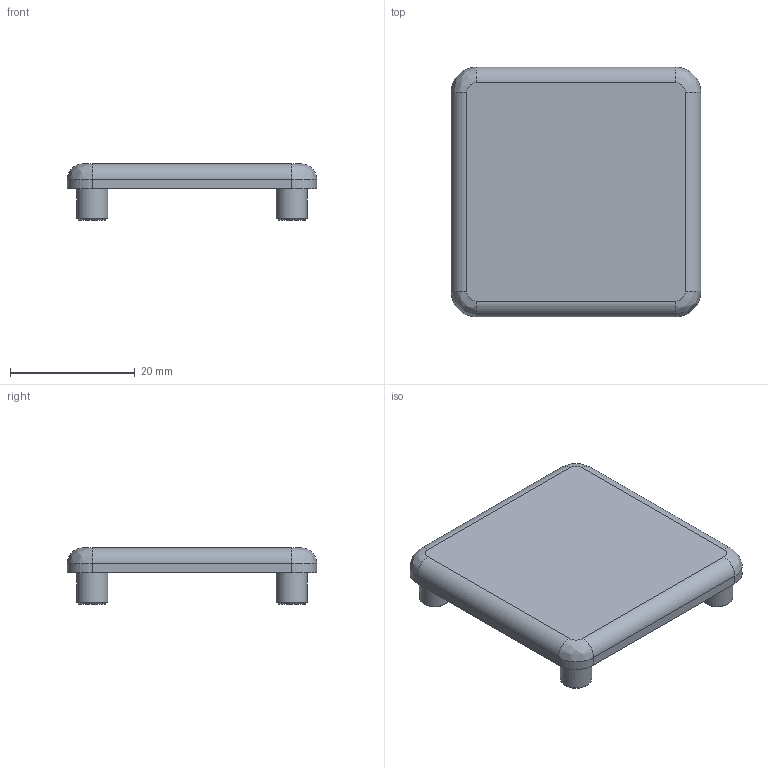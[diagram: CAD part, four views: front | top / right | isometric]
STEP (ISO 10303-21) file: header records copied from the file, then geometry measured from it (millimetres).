
FILE_DESCRIPTION( ( 'STEP AP214' ), '1' );
FILE_NAME( 'C:/Users/Segreteria/Desktop/CA.ADK.JU.4040.stp', '2014-07-02T09:05:53', ( ' ' ), ( ' ' ), 'XStep 1.0', ' ', ' ' );
FILE_SCHEMA( ( 'CONFIG_CONTROL_DESIGN) ( )' ) );
Length unit declared in the file: metre
Products named in the file (1): 1
Bounding box: 40 x 40 x 9 mm (x, y, z)
Volume: 6534.4 mm3; surface area: 3920.6 mm2
Topology: 1 solids, 1 shells, 30 faces, 64 edges, 40 vertices
Faces by surface type: cylinder 12, plane 10, cone 4, bspline 4
Full cylindrical faces by diameter (mm): 5 x4
Entity records: 1144 total; most frequent: CARTESIAN_POINT 179, DIRECTION 138, ORIENTED_EDGE 104, AXIS2_PLACEMENT_3D 59, STYLED_ITEM 58, PRESENTATION_STYLE_ASSIGNMENT 58, COLOUR_RGB 58, EDGE_CURVE 52
